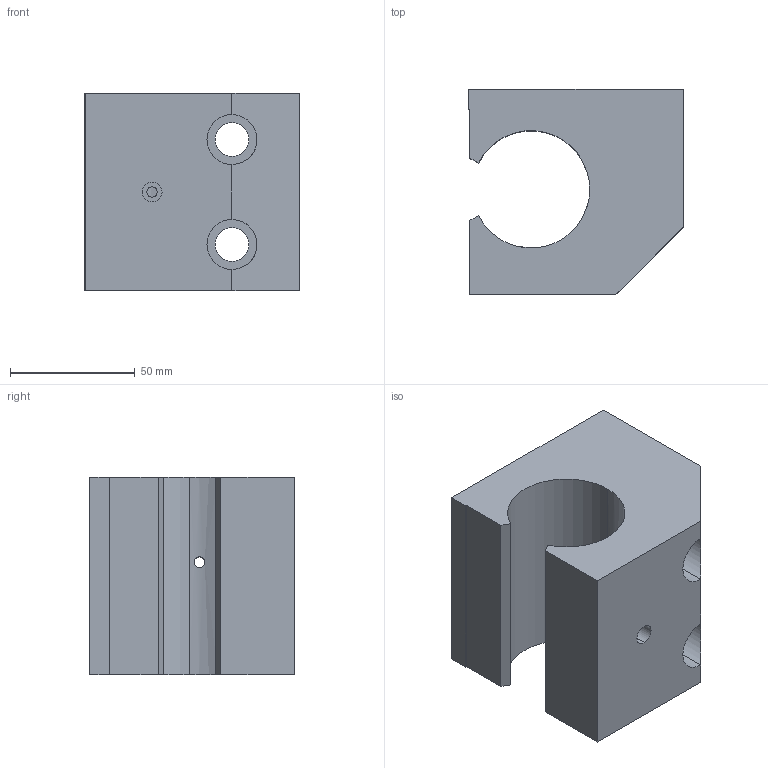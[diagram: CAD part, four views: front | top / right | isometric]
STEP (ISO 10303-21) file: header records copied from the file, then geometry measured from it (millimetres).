
FILE_DESCRIPTION (( 'STEP AP214' ), '1' );
FILE_NAME ('KGS71-30.step', '2020-03-04T13:23:46', ( '' ), ( '' ), 'SwSTEP 2.0', 'SolidWorks 2019', '' );
FILE_SCHEMA (( 'AUTOMOTIVE_DESIGN' ));
Length unit declared in the file: millimetre
Products named in the file (1): KGS71-30
Bounding box: 86 x 82 x 79 mm (x, y, z)
Volume: 351816.7 mm3; surface area: 51548.8 mm2
Topology: 1 solids, 1 shells, 35 faces, 90 edges, 58 vertices
Faces by surface type: cylinder 18, plane 15, cone 2
Entity records: 1320 total; most frequent: CARTESIAN_POINT 312, DIRECTION 188, ORIENTED_EDGE 180, EDGE_CURVE 90, AXIS2_PLACEMENT_3D 68, VERTEX_POINT 58, LINE 52, VECTOR 52
